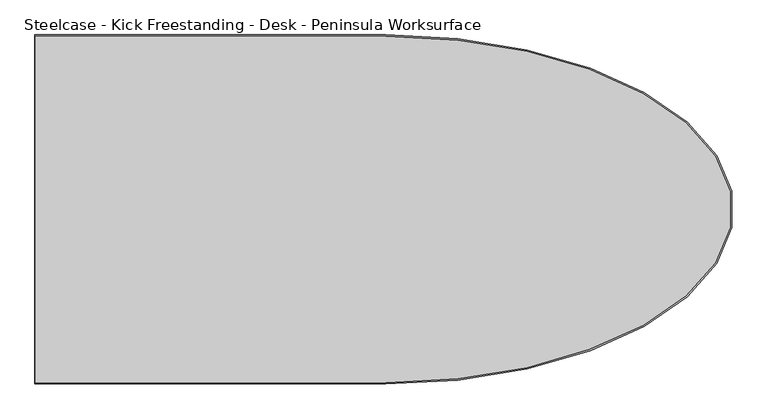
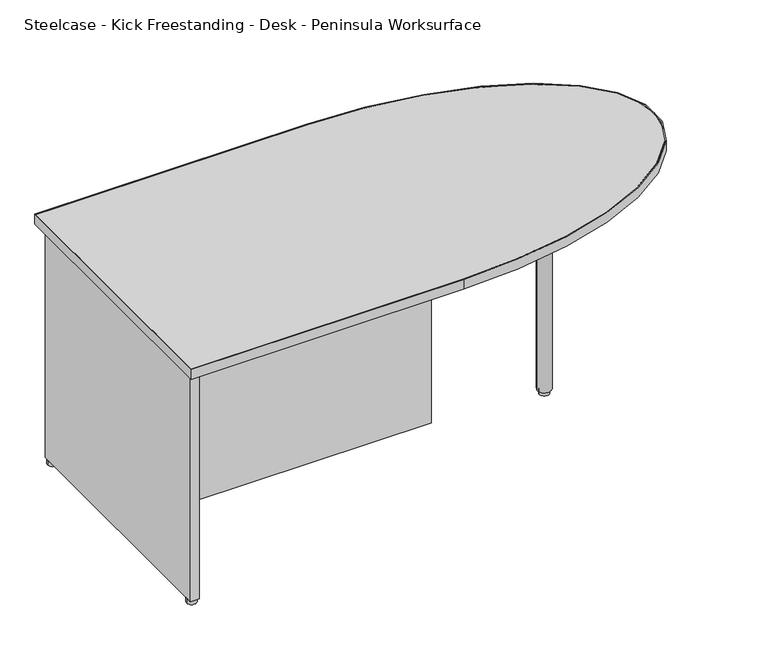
"""IFC4 building model written with IfcOpenShell, lengths in millimetres: furniture geometry, Steelcase - Kick Freestanding - Desk - Peninsula Worksurface : 30D x 60W - Full Panel."""

from ifc_helpers import new_model, si_unit, point, frame, frame_2d, origin, origin_with_axes, place, context, project, spatial, polyline, circle_curve, ellipse_curve, trimmed, segment, composite_curve, outline, extrude, source, transform, mapped, element, save
from ifc_brep_helpers import plane_surface, extruded_surface, advanced_brep


def steelcase_kick_freestanding_desk_peninsula_worksurface_9758a9c9(model_context):
    return source(origin(), model_context, "Body", "SolidModel", [
        extrude(outline(polyline([(3375.2298423, -802.0909301), (3500.9534455, -927.8145152), (3375.2298786, -1053.5381002), (3249.5062754, -927.8145152), (3375.2298423, -802.0909301)])), frame((0.0, 0.0, 678.688), z_axis=(0.0, 0.0, 1.0), x_axis=(1.0, 0.0, 0.0)), (0.0, 0.0, 1.0), 16.256),
        extrude(outline(polyline([(2200.9434425, -940.5145152), (2200.9434425, -915.1145152), (3050.5734425, -915.1145152), (3050.5734425, -940.5145152), (2200.9434425, -940.5145152)])), frame((0.0, 0.0, 31.496), z_axis=(0.0, 0.0, 1.0), x_axis=(1.0, 0.0, 0.0)), (0.0, 0.0, 1.0), 663.448),
        extrude(outline(composite_curve([segment(trimmed(circle_curve(frame_2d((3375.1854425, -927.8063303)), 13.97), [point((3361.2154425, -927.8063303))], [point((3389.1554425, -927.8063303))], False, "CARTESIAN"), True, "CONTINUOUS"), segment(trimmed(circle_curve(frame_2d((3375.1854425, -927.8063303)), 13.97), [point((3389.1554425, -927.8063303))], [point((3361.2154425, -927.8063303))], False, "CARTESIAN"), True, "CONTINUOUS")], self_intersect=False)), origin_with_axes(), (0.0, 0.0, 1.0), 12.5222),
        extrude(outline(composite_curve([segment(trimmed(circle_curve(frame_2d((3375.1854425, -927.7998125)), 19.05), [point((3356.1354425, -927.7998125))], [point((3394.2354425, -927.7998125))], False, "CARTESIAN"), True, "CONTINUOUS"), segment(trimmed(circle_curve(frame_2d((3375.1854425, -927.7998125)), 19.05), [point((3394.2354425, -927.7998125))], [point((3356.1354425, -927.7998125))], False, "CARTESIAN"), True, "CONTINUOUS")], self_intersect=False)), frame((0.0, 0.0, 12.5222), z_axis=(0.0, 0.0, 1.0), x_axis=(1.0, 0.0, 0.0)), (0.0, 0.0, 1.0), 682.4218),
        extrude(outline(composite_curve([segment(trimmed(circle_curve(frame_2d((2188.6643434, -589.5500339)), 13.97), [point((2174.6943434, -589.5500339))], [point((2202.6343434, -589.5500339))], False, "CARTESIAN"), True, "CONTINUOUS"), segment(trimmed(circle_curve(frame_2d((2188.6643434, -589.5500339)), 13.97), [point((2202.6343434, -589.5500339))], [point((2174.6943434, -589.5500339))], False, "CARTESIAN"), True, "CONTINUOUS")], self_intersect=False)), origin_with_axes(), (0.0, 0.0, 1.0), 12.5222),
        extrude(outline(composite_curve([segment(trimmed(circle_curve(frame_2d((2188.6465467, -1265.8952821)), 13.97), [point((2174.6765467, -1265.8952821))], [point((2202.6165467, -1265.8952821))], False, "CARTESIAN"), True, "CONTINUOUS"), segment(trimmed(circle_curve(frame_2d((2188.6465467, -1265.8952821)), 13.97), [point((2202.6165467, -1265.8952821))], [point((2174.6765467, -1265.8952821))], False, "CARTESIAN"), True, "CONTINUOUS")], self_intersect=False)), origin_with_axes(), (0.0, 0.0, 1.0), 12.5222),
        advanced_brep(
        [(2163.8594425, -546.8145152, 723.9), (2163.8594425, -1308.8145152, 723.9), (2928.2978111, -1308.8145152, 723.9), (2928.2978111, -546.8145152, 723.9), (2164.8500425, -549.7863152, 723.9), (2928.2978111, -549.7863152, 723.9), (2928.2978111, -1305.8427489, 723.9), (2164.8500425, -1305.8427489, 723.9), (2163.8594425, -546.8145152, 694.944), (2928.2978111, -546.8145152, 694.944), (2928.2978111, -1308.8145152, 694.944), (2163.8594425, -1308.8145152, 694.944), (2164.8500425, -549.7863152, 694.944), (2164.8500425, -1305.8427489, 694.944), (2928.2978111, -1305.8427489, 694.944), (2928.2978111, -549.7863152, 694.944)],
        [
            (0, 1),
            (1, 2),
            (2, 3, ellipse_curve(frame((2928.2978111, -927.8145152, 723.9), z_axis=(0.0, 0.0, 1.0), x_axis=(-1.0, 0.0, 0.0)), 759.0188112, 381.0)),
            (3, 0),
            (4, 5),
            (5, 6, ellipse_curve(frame((2928.2978111, -927.8145321, 723.9), z_axis=(0.0, 0.0, -1.0), x_axis=(-1.0, 0.0, 0.0)), 755.65, 378.0282168)),
            (6, 7),
            (7, 4),
            (8, 9),
            (9, 10, ellipse_curve(frame((2928.2978111, -927.8145152, 694.944), z_axis=(0.0, 0.0, -1.0), x_axis=(0.0, 1.0, 0.0)), 381.0, 759.0188112)),
            (10, 11),
            (11, 8),
            (12, 13),
            (13, 14),
            (14, 15, ellipse_curve(frame((2928.2978111, -927.8145321, 694.944), z_axis=(0.0, 0.0, 1.0), x_axis=(-1.0, 0.0, 0.0)), 755.65, 378.0282168)),
            (15, 12),
            (0, 8),
            (11, 1),
            (10, 2),
            (9, 3),
            (4, 12),
            (15, 5),
            (14, 6),
            (13, 7),
        ],
        [
            plane_surface(frame((2163.8594425, -546.8145152, 723.9), z_axis=(0.0, 0.0, 1.0), x_axis=(0.0, -1.0, 0.0))),
            plane_surface(frame((2163.8594425, -546.8145152, 694.944), z_axis=(0.0, 0.0, -1.0), x_axis=(0.0, 1.0, 0.0))),
            plane_surface(frame((2163.8594425, -546.8145152, 723.9), z_axis=(-1.0, 0.0, 0.0), x_axis=(0.0, 0.0, -1.0))),
            plane_surface(frame((2163.8594425, -1308.8145152, 723.9), z_axis=(0.0, -1.0, 0.0), x_axis=(0.0, 0.0, -1.0))),
            extruded_surface(trimmed(ellipse_curve(frame((2928.2978111, -927.8145152, 665.988), z_axis=(0.0, 0.0, 1.0), x_axis=(0.0, 1.0, 0.0)), 381.0, 759.0188112), [point((2928.2978111, -1308.8145152, 665.988))], [point((2928.2978111, -546.8145152, 665.988))], True, "CARTESIAN"), (0.0, 0.0, 28.955999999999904), 28.955999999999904),
            plane_surface(frame((2928.2978111, -546.8145152, 723.9), z_axis=(0.0, 1.0, 0.0), x_axis=(0.0, 0.0, -1.0))),
            plane_surface(frame((2164.8500425, -549.7863152, 723.9), z_axis=(0.0, -1.0, 0.0), x_axis=(0.0, 0.0, -1.0))),
            extruded_surface(trimmed(ellipse_curve(frame((2928.2978111, -927.8145321, -28.956), z_axis=(0.0, 0.0, -1.0), x_axis=(0.0, -1.0, 0.0)), 378.0282168, 755.65), [point((2928.2978111, -549.7863152, -28.956))], [point((2928.2978111, -1305.8427489, -28.956))], True, "CARTESIAN"), (0.0, 0.0, 28.956), 28.956),
            plane_surface(frame((2928.2978111, -1305.8427489, 723.9), z_axis=(0.0, 1.0, 0.0), x_axis=(0.0, 0.0, -1.0))),
            plane_surface(frame((2164.8500425, -1305.8427489, 723.9), z_axis=(1.0, 0.0, 0.0), x_axis=(0.0, 0.0, -1.0))),
        ],
        [
            (0, [[1, 2, 3, 4], [5, 6, 7, 8]]),
            (1, [[9, 10, 11, 12], [13, 14, 15, 16]]),
            (2, [[-1, 17, -12, 18]]),
            (3, [[-2, -18, -11, 19]]),
            (4, [[-3, -19, -10, 20]]),
            (5, [[-4, -20, -9, -17]]),
            (6, [[-5, 21, -16, 22]]),
            (7, [[-6, -22, -15, 23]]),
            (8, [[-7, -23, -14, 24]]),
            (9, [[-8, -24, -13, -21]]),
        ],
    ),
        advanced_brep(
        [(2928.2978111, -1305.8427489, 723.9), (2928.2978111, -549.7863152, 723.9), (2164.8500425, -549.7863152, 723.9), (2164.8500425, -1305.8427489, 723.9), (2928.2978111, -1305.8427489, 694.944), (2164.8500425, -1305.8427489, 694.944), (2164.8500425, -549.7863152, 694.944), (2928.2978111, -549.7863152, 694.944)],
        [
            (0, 1, ellipse_curve(frame((2928.2978111, -927.8145321, 723.9), z_axis=(0.0, 0.0, 1.0), x_axis=(1.0, 0.0, 0.0)), 755.65, 378.0282168)),
            (1, 2),
            (2, 3),
            (3, 0),
            (4, 5),
            (5, 6),
            (6, 7),
            (7, 4, ellipse_curve(frame((2928.2978111, -927.8145321, 694.944), z_axis=(0.0, 0.0, -1.0), x_axis=(0.0, -1.0, 0.0)), 378.0282168, 755.65)),
            (0, 4),
            (7, 1),
            (6, 2),
            (5, 3),
        ],
        [
            plane_surface(frame((2928.2978111, -1305.8427489, 723.9), z_axis=(0.0, 0.0, 1.0), x_axis=(1.0, 0.0, 0.0))),
            plane_surface(frame((2928.2978111, -1305.8427489, 694.944), z_axis=(0.0, 0.0, -1.0), x_axis=(-1.0, 0.0, 0.0))),
            extruded_surface(trimmed(ellipse_curve(frame((2928.2978111, -927.8145321, 665.988), z_axis=(0.0, 0.0, 1.0), x_axis=(0.0, -1.0, 0.0)), 378.0282168, 755.65), [point((2928.2978111, -1305.8427489, 665.988))], [point((2928.2978111, -549.7863152, 665.988))], True, "CARTESIAN"), (0.0, 0.0, 28.955999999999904), 28.955999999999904),
            plane_surface(frame((2928.2978111, -549.7863152, 723.9), z_axis=(0.0, 1.0, 0.0), x_axis=(0.0, 0.0, -1.0))),
            plane_surface(frame((2164.8500425, -549.7863152, 723.9), z_axis=(-1.0, 0.0, 0.0), x_axis=(0.0, 0.0, -1.0))),
            plane_surface(frame((2164.8500425, -1305.8427489, 723.9), z_axis=(0.0, -1.0, 0.0), x_axis=(0.0, 0.0, -1.0))),
        ],
        [
            (0, [[1, 2, 3, 4]]),
            (1, [[5, 6, 7, 8]]),
            (2, [[-1, 9, -8, 10]]),
            (3, [[-2, -10, -7, 11]]),
            (4, [[-3, -11, -6, 12]]),
            (5, [[-4, -12, -5, -9]]),
        ],
    ),
        extrude(outline(polyline([(2200.9434425, -574.3735161), (2200.9434425, -688.2671183), (2179.9630426, -688.2671183), (2179.9630426, -787.936716), (2200.9434425, -787.936716), (2200.9434425, -1067.6923144), (2179.9630426, -1067.6923144), (2179.9630426, -1167.3618848), (2200.9434425, -1167.3618848), (2200.9434425, -1281.2555142), (2176.5594429, -1281.2555142), (2176.5594429, -574.3735161), (2200.9434425, -574.3735161)])), frame((0.0, 0.0, 12.5222), z_axis=(0.0, 0.0, 1.0), x_axis=(1.0, 0.0, 0.0)), (0.0, 0.0, 1.0), 682.4218),
    ])


if __name__ == "__main__":
    model = new_model("IFC4")
    model_context = context("Model", 3, world=origin())
    ifc_project = project(units=[si_unit("LENGTHUNIT", "METRE", prefix="MILLI")], contexts=[model_context])
    site = spatial("IfcSite", under=ifc_project)
    building = spatial("IfcBuilding", under=site)
    placement = place(None, origin())
    steelcase_kick_freestanding_desk_peninsula_worksurface_shape = steelcase_kick_freestanding_desk_peninsula_worksurface_9758a9c9(model_context)
    element("IfcFurniture", 1, ObjectType="Steelcase - Kick Freestanding - Desk - Peninsula Worksurface : 30D x 60W - Full Panel", at=placement, inside=building, context=model_context, shape_type="MappedRepresentation", body=[
        mapped(steelcase_kick_freestanding_desk_peninsula_worksurface_shape, transform((0.0, 0.0, 0.0), x_axis=(1.0, 0.0, 0.0), y_axis=(0.0, 1.0, 0.0), z_axis=(0.0, 0.0, 1.0))),
    ])
    save(model, "model.ifc")
